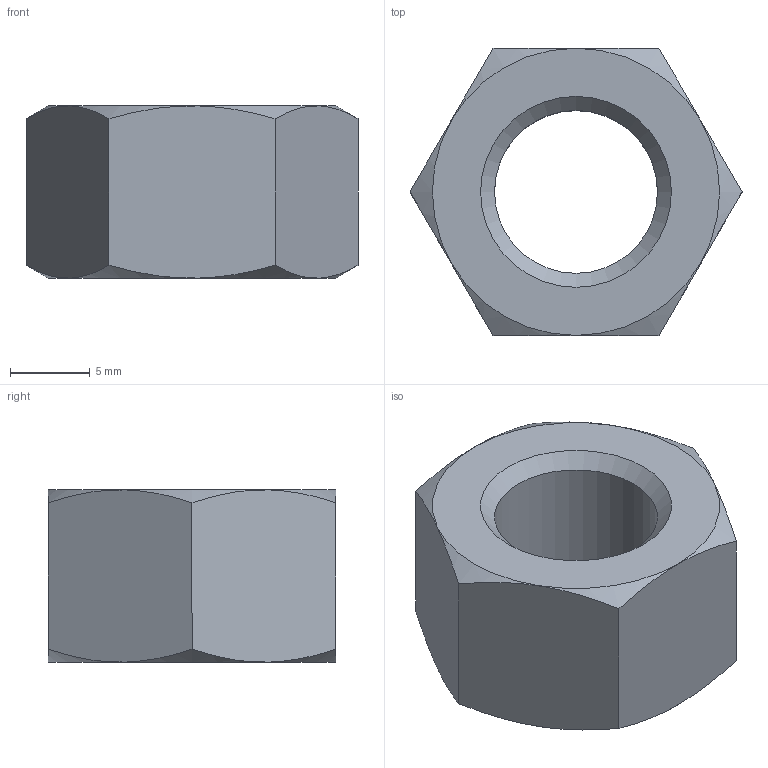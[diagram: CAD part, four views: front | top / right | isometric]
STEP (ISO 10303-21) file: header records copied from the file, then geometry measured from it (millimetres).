
FILE_DESCRIPTION( ( 'Unknown' ), '1' );
FILE_NAME( 'E:/-=Projekty=-/Projekty PKM/Solid Edge Standard Parts/nakrętki 4032/M12_PN-EN-ISO 4032_2004.stp', 'Unknown', ( 'Unknown' ), ( 'Unknown' ), 'PSStep 14.0', 'Unknown', ' ' );
FILE_SCHEMA( ( 'AUTOMOTIVE_DESIGN { 1 0 10303 214 1 1 1 1 }' ) );
Length unit declared in the file: millimetre
Products named in the file (1): 1
Bounding box: 20.78 x 18 x 10.8 mm (x, y, z)
Volume: 2109 mm3; surface area: 1359.5 mm2
Topology: 1 solids, 1 shells, 13 faces, 29 edges, 18 vertices
Faces by surface type: plane 8, cone 4, cylinder 1
Full cylindrical faces by diameter (mm): 10.2 x1
Entity records: 556 total; most frequent: CARTESIAN_POINT 180, ORIENTED_EDGE 48, DIRECTION 46, EDGE_CURVE 24, AXIS2_PLACEMENT_3D 20, EDGE_LOOP 20, VERTEX_POINT 18, FACE_OUTER_BOUND 14
